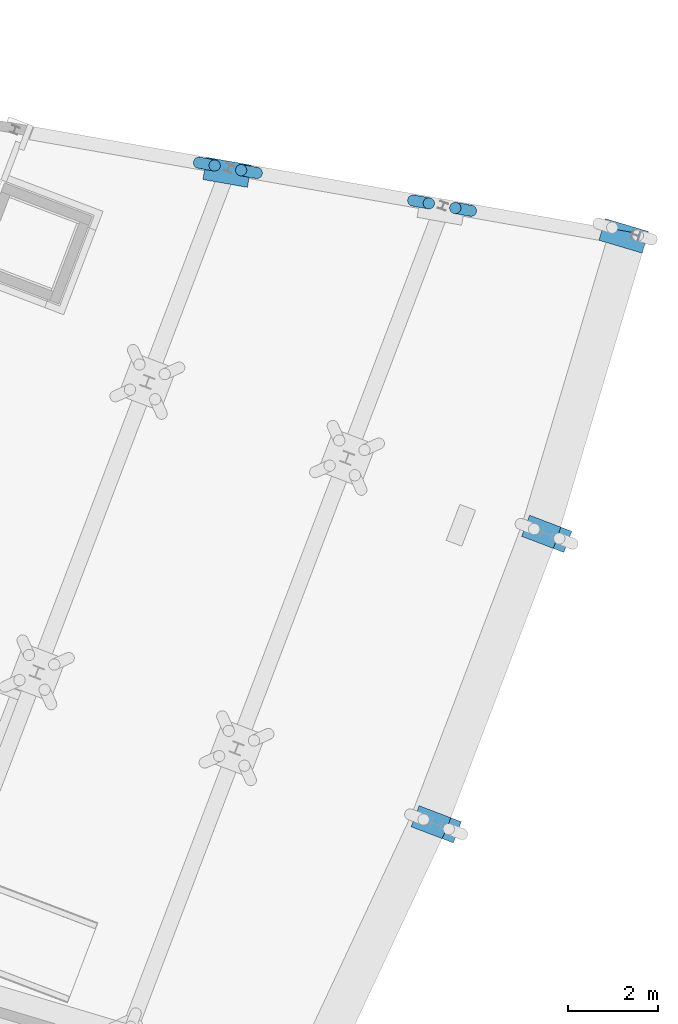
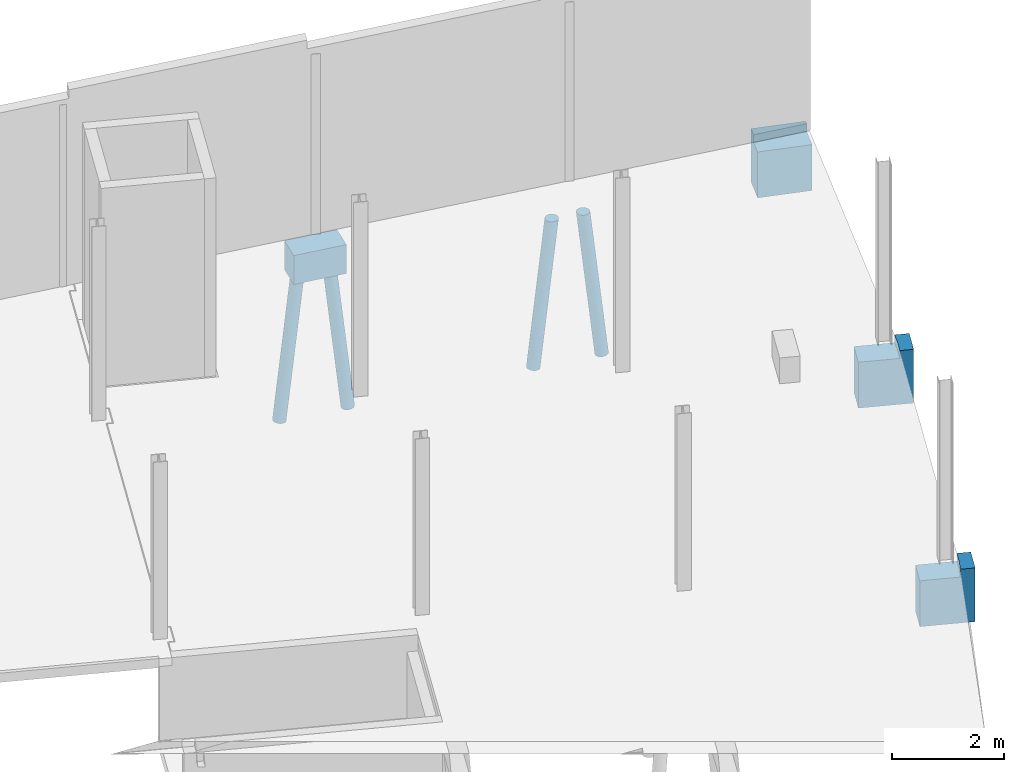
# One storey, part 30 of 46: 4 footings, 4 piles.
"""IFC2X3 building model written with IfcOpenShell, lengths in millimetres."""

from ifc_helpers import new_model, entity, si_unit, converted_unit, derived_unit, direction, frame, frame_2d, origin, place, context, subcontext, project, spatial, rectangle, extrude, faceted_brep, source, transform, mapped, material, type_object, type_shapes, element, save


model = new_model("IFC2X3")

# Units and contexts
model_context = context("Model", 3, precision=0.01, world=origin(), true_north=direction((6.123233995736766e-17, 1.0)))
body_context = subcontext(model_context, "Body", "Model", "MODEL_VIEW")
ifc_project = project(units=[si_unit("LENGTHUNIT", "METRE", prefix="MILLI"), converted_unit("PLANEANGLEUNIT", "DEGREE", entity("IfcPlaneAngleMeasure", 0.017453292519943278), si_unit("PLANEANGLEUNIT", "RADIAN"), dimensions=[0, 0, 0, 0, 0, 0, 0]), si_unit("AREAUNIT", "SQUARE_METRE"), derived_unit("THERMALTRANSMITTANCEUNIT", [(si_unit("MASSUNIT", "GRAM", prefix="KILO"), 1), (si_unit("THERMODYNAMICTEMPERATUREUNIT", "KELVIN"), -1), (si_unit("TIMEUNIT", "SECOND"), -3)])], contexts=[model_context])

# Site, building, storey
site_placement = place(None, frame((-72937.88054949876, 11621.45624098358, 0.0), z_axis=(0.0, 0.0, 1.0), x_axis=(0.9346418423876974, -0.35559053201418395, 0.0)))
site = spatial("IfcSite", under=ifc_project, at=site_placement, Name="Default", CompositionType="ELEMENT")
building_placement = place(site_placement, origin())
building = spatial("IfcBuilding", under=site, at=building_placement, CompositionType="ELEMENT")
storey_placement = place(building_placement, origin())
storey = spatial("IfcBuildingStorey", under=building, at=storey_placement, Name="00 begane grond", CompositionType="ELEMENT", Elevation=0.0)

# Footings
ifc_material_1 = material(Name="beton_gewapend_ihw")
type_product_1 = type_object("IfcTypeProduct", Name="poer 500x1000x1170mm", material=ifc_material_1)
shared_shape_1 = source(origin(), body_context, "Body", "Brep", [
    faceted_brep([(67530.00015558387, 22130.0, -1170.0), (67530.00015558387, 21630.0, -1170.0), (67262.15409664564, 21630.0, -1170.0), (67096.70138460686, 21630.0, -1170.0), (66530.00015558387, 21630.0, -1170.0), (66530.00015558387, 22130.0, -1170.0), (67115.00015558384, 22130.0, -1170.0), (67280.00015558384, 22130.0, -1170.0), (67530.00015558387, 21630.0, 0.0), (67530.00015558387, 22130.0, 0.0), (67280.00015558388, 22130.0, 0.0), (67280.00015558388, 21870.7468343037, 0.0), (67262.15409664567, 21630.0, 0.0), (66530.00015558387, 22130.0, -298.0891719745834), (66530.00015558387, 22130.0, -170.0), (67280.00015558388, 22130.0, -170.0), (66530.00015558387, 21630.0, -327.6735982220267), (66530.00015558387, 21630.0, -170.0), (66530.00015558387, 21898.506716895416, -170.0), (67262.15409664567, 21630.0, -170.0), (67280.00015558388, 21870.746834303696, -170.0)], [[[0, 1, 2, 3, 4, 5, 6, 7]], [[8, 9, 10, 11, 12]], [[0, 7, 6, 5, 13, 14, 15, 10, 9]], [[5, 4, 16, 17, 18, 14, 13]], [[4, 3, 2, 1, 8, 12, 19, 17, 16]], [[1, 0, 9, 8]], [[19, 20, 15, 14, 18, 17]], [[20, 11, 10, 15]], [[11, 20, 19, 12]]]),
])
type_shapes(type_product_1, [shared_shape_1])
footing_1_placement = place(storey_placement, frame((0.0, 0.0, -60.0)))
element("IfcFooting", 1, at=footing_1_placement, inside=storey, type_object=type_product_1, material=ifc_material_1, Name="16.13_Poer rechthoek", ObjectType="betonpoer rechthoekig", PredefinedType="PILE_CAP", context=body_context, shape_type="MappedRepresentation", body=[
    mapped(shared_shape_1, transform((0.0, 0.0, 0.0), scale=1.0)),
])
type_product_2 = type_object("IfcTypeProduct", Name="poer 500x1000x1170mm", material=ifc_material_1)
shared_shape_2 = source(origin(), body_context, "Body", "Brep", [
    faceted_brep([(67530.00015558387, 29010.0, -1170.0), (67530.00015558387, 28510.0, -1170.0), (67280.00015558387, 28510.0, -1170.0), (67115.00015558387, 28510.0, -1170.0), (66530.00015558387, 28510.0, -1170.0), (66530.00015558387, 29010.0, -1170.0), (67098.70689107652, 29010.0, -1170.0), (67264.1596031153, 29010.0, -1170.0), (67530.00015558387, 28510.0, 0.0), (67530.00015558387, 29010.0, 0.0), (67264.15960311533, 29010.0, 0.0), (67280.00015558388, 28796.307841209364, 0.0), (67280.00015558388, 28510.0, 0.0), (66530.00015558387, 29010.0, -324.6926781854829), (66530.00015558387, 29010.0, -170.0), (67264.15960311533, 29010.0, -170.0), (66530.00015558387, 28510.0, -298.08917197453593), (66530.00015558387, 28510.0, -170.0), (66530.00015558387, 28768.547958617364, -170.0), (67280.00015558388, 28510.0, -170.0), (67280.00015558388, 28796.307841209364, -170.0)], [[[0, 1, 2, 3, 4, 5, 6, 7]], [[8, 9, 10, 11, 12]], [[0, 7, 6, 5, 13, 14, 15, 10, 9]], [[5, 4, 16, 17, 18, 14, 13]], [[4, 3, 2, 1, 8, 12, 19, 17, 16]], [[1, 0, 9, 8]], [[19, 20, 15, 14, 18, 17]], [[20, 11, 10, 15]], [[11, 20, 19, 12]]]),
])
type_shapes(type_product_2, [shared_shape_2])
footing_2_placement = place(storey_placement, frame((0.0, 0.0, -60.0)))
element("IfcFooting", 2, at=footing_2_placement, inside=storey, type_object=type_product_2, material=ifc_material_1, Name="16.13_Poer rechthoek", ObjectType="betonpoer rechthoekig", PredefinedType="PILE_CAP", context=body_context, shape_type="MappedRepresentation", body=[
    mapped(shared_shape_2, transform((0.0, 0.0, 0.0), scale=1.0)),
])
type_product_3 = type_object("IfcTypeProduct", Name="poer 500x1000x800mm", material=ifc_material_1)
shared_shape_3 = source(origin(), body_context, "Body", "SweptSolid", [
    extrude(rectangle(XDim=630.0000000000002, YDim=499.9999999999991, at=frame_2d((-33.33333333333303, 33.33333333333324), x_axis=(1.0, 0.0))), frame((57072.62580059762, 33663.57920424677, -451.66666666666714), z_axis=(0.9822397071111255, 0.18763037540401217, 0.0), x_axis=(0.0, 0.0, 1.0)), (0.0, 0.0, 1.0), 1000.0000000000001),
])
type_shapes(type_product_3, [shared_shape_3])
footing_3_placement = place(storey_placement, frame((0.0, 0.0, -60.0)))
element("IfcFooting", 3, at=footing_3_placement, inside=storey, type_object=type_product_3, material=ifc_material_1, Name="16.13_Poer rechthoek", ObjectType="betonpoer rechthoekig", PredefinedType="PILE_CAP", context=body_context, shape_type="MappedRepresentation", body=[
    mapped(shared_shape_3, transform((0.0, 0.0, 0.0), scale=1.0)),
])

# Piles
ifc_material_2 = material(Name="beton_gewapend_prefab-element_c45/55")
type_product_4 = type_object("IfcTypeProduct", Name="Type 01", material=ifc_material_2)
shared_shape_4 = source(origin(), body_context, "Body", "Brep", [
    faceted_brep([(-21.492869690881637, -34.07967924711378, -2142.478153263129), (41.770052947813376, 0.0, -1615.9926657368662), (50.02983679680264, -41.219149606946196, -1478.3429510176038), (-120.39371842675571, -27.815116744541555, -840.0), (-209.76851175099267, 0.0, -1615.9934634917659), (-196.5141812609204, -41.35907440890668, -1560.4595682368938), (-88.87736384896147, -91.39060439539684, -2432.143714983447), (-29.01608810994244, -89.9027707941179, -1907.5825387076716), (-105.46135978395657, -105.60554685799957, -2414.744852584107), (115.53639022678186, -54.235467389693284, -840.0), (100.55257203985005, -77.93622523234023, -840.0), (44.04069234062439, -66.4881713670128, -1422.150587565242), (-241.29781855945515, -62.499999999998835, -4011.9545633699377), (-228.8866429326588, -32.35238063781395, -4013.333582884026), (-181.63351961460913, -47.83542906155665, -3540.4622999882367), (127.99146025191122, 0.0, -840.0), (124.838162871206, -27.815116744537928, -840.0), (56.79144948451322, -112.62110848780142, -840.0), (-1.0422673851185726, -115.29700921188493, -1306.634534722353), (80.6380595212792, -97.7289353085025, -840.0), (-148.00042706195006, -121.55050259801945, -1927.9224619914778), (-119.59016639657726, -124.7753227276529, -1868.475336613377), (-82.66188090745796, -124.23733970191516, -1479.1096584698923), (2.222222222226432, -125.0, -840.0), (-25.764066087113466, -121.86598902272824, -840.0), (35.238837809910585, -88.30507823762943, -1343.9943162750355), (-38.428481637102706, -123.46402257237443, -1382.7576650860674), (30.208510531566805, -121.86598902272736, -840.0), (-105.46067851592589, -124.17311504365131, -1939.1271630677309), (-121.64165871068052, -118.88184081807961, -2304.5646505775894), (-59.29822656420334, -117.91120533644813, -1769.4495348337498), (-224.65342205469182, 0.0, -4013.803940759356), (-181.5427184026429, 0.0, -3625.8076078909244), (-187.86059930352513, -76.09517863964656, -3448.7603995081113), (-111.16783038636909, -79.40373738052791, -2734.720867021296), (-186.42266103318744, -99.1691675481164, -3226.87509877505), (-381.04339378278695, -120.74072828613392, -3996.4272772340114), (-348.8888888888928, -125.0, -4000.0), (-294.25946310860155, -123.9306076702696, -3360.589550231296), (-119.53291308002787, -47.835429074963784, -2981.55684112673), (-105.13946974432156, -22.11026756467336, -2920.330251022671), (-71.50265177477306, -37.61355729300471, -2582.985799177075), (-160.26870491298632, -23.53094104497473, -3414.1045295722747), (-286.7711554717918, -108.25317547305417, -4006.901970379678), (-238.88036705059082, -115.48494156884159, -3443.09153660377), (-261.04114782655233, -88.38834764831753, -4009.7608601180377), (-316.7343839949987, -120.74072828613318, -4003.5727227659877), (-84.00174733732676, -60.02171841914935, -2608.908596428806), (-61.65923548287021, -74.64816535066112, -2322.8523974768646), (-173.2739820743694, -115.31995815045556, -2856.223431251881), (-151.97718420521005, -123.99260475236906, -2371.2114813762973), (-123.54701580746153, 0.0, -840.0), (-250.82857575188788, -22.617884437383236, -2004.2180489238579), (-295.9900076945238, 0.0, -2391.986926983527), (-52.347005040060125, -112.6211084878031, -840.0), (-76.19361507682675, -97.72893530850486, -840.0), (-107.44397040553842, -105.89787173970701, -1225.6035634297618), (-281.4812245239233, -123.93060767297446, -3541.076638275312), (-109.06614769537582, -117.5733672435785, -1457.2474766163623), (-111.0919457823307, -54.235467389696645, -840.0), (-15.85514051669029, -105.72630914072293, -1606.5585830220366), (-146.68659472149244, -88.47759853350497, -1380.5978408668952), (-158.7756678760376, -105.96661342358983, -1688.5825591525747), (-348.5966640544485, -22.310072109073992, -2883.621631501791), (-384.5571817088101, 0.0, -3189.0914931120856), (-404.9818286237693, -23.95962394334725, -3393.9013620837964), (-416.2874807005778, -47.83542904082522, -3560.826702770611), (-468.89113484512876, -32.35238063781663, -3986.6664171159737), (-456.47995921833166, -62.500000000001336, -3988.0454366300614), (-337.6622645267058, -115.48494156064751, -3465.7921474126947), (-411.00662230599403, -108.25317547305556, -3993.0980296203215), (-255.6918544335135, -84.13968982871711, -2324.129304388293), (-241.96823570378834, -100.09571921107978, -2359.7174741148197), (-204.57839676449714, -89.69967503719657, -1912.8684599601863), (-96.10812759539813, -77.93622523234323, -840.0), (-436.73662995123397, -88.38834764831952, -3990.239139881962), (-377.92930595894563, -99.16916753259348, -3572.292603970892), (-206.96183482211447, -60.377923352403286, -1731.5361763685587), (-358.429549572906, -47.83542903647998, -3040.1053226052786), (-296.17437932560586, -43.53585544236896, -2464.518236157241), (-379.61635653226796, -76.09517861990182, -3378.5322028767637), (-430.0136077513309, 0.0, -3598.199327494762), (-306.35511538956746, -77.61365432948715, -2729.9013330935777), (-213.4617402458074, -118.14633713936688, -2411.4959163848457), (-159.2186646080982, -65.41382269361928, -1328.4086999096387), (-67.97340634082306, -109.92592992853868, -2010.6352011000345), (-179.43548008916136, -124.76102802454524, -2404.9604566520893), (-13.219750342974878, -66.34050229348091, -1938.3332116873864), (-236.17409644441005, -124.51562049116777, -2886.015168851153), (-268.30597333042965, -110.23172722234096, -2741.026078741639), (-270.10864031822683, -119.49229851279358, -2958.6820679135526), (-320.7170568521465, -99.16916752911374, -3057.382361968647), (-473.12435572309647, 0.0, -3986.1960592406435), (-138.91569201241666, -99.37675608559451, -2796.855638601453), (-220.46267944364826, -123.93060767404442, -2991.9097324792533), (-44.45135435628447, 0.0, -2391.9853314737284), (-247.15908292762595, -66.69543969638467, -2127.0964328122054), (-134.55238820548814, 0.0, -3202.894636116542), (-89.50217198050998, 0.0, -2797.4426900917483), (-303.09738986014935, -21.900839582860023, -2473.4623287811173), (-340.273594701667, 0.0, -2790.539210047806), (-246.59414544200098, -45.75852255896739, -2025.9931784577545), (124.83816287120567, 27.815116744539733, -840.0), (115.53639022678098, 54.23546738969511, -840.0), (100.55257203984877, 77.93622523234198, -840.0), (80.63805952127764, 97.72893530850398, -840.0), (56.7914494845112, 112.62110848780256, -840.0), (30.20851053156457, 121.86598902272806, -840.0), (2.222222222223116, 125.0, -840.0), (-25.764066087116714, 121.86598902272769, -840.0), (-52.3470050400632, 112.62110848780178, -840.0), (-76.19361507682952, 97.72893530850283, -840.0), (-96.1081275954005, 77.93622523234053, -840.0), (-111.09194578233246, 54.23546738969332, -840.0), (-120.39371842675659, 27.815116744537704, -840.0), (-213.46174017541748, 118.14633716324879, -2411.4959163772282), (-268.3059732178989, 110.23172722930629, -2741.0260778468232), (-241.96823566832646, 100.09571920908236, -2359.717473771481), (-187.14229973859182, 67.59575846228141, -1592.137482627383), (-196.5141812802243, 41.359074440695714, -1560.4595685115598), (-82.66188086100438, 124.23733970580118, -1479.1096583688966), (-29.016087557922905, 89.90277069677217, -1907.5825346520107), (35.23883807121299, 88.30507821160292, -1343.9943141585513), (-13.219750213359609, 66.3405022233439, -1938.3332109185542), (-109.06614766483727, 117.57336725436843, -1457.2474766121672), (-381.04339378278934, 120.74072828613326, -3996.4272772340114), (-337.6622645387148, 115.48494156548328, -3465.7921476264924), (-294.2594631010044, 123.93060767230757, -3360.5895503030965), (-377.9293059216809, 99.16916753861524, -3572.292603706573), (-379.61635651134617, 76.09517863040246, -3378.53220276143), (-320.717056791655, 99.16916754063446, -3057.382361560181), (-286.77115547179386, 108.25317547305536, -4006.901970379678), (-238.88036707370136, 115.48494156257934, -3443.0915369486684), (-186.42266103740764, 99.16916753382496, -3226.875098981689), (-241.29781855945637, 62.50000000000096, -4011.9545633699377), (-181.63351956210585, 47.835429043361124, -3540.4622995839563), (-228.88664293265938, 32.352380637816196, -4013.333582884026), (-107.44397039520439, 105.89787175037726, -1225.6035634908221), (-38.428481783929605, 123.46402262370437, -1382.7576634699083), (-468.89113484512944, 32.35238063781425, -3986.6664171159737), (-173.2739821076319, 115.31995832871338, -2856.223427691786), (-138.91569233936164, 99.37675620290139, -2796.855640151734), (-160.26870486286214, 23.530941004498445, -3414.104529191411), (-261.041147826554, 88.38834764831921, -4009.7608601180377), (-187.86059935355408, 76.09517862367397, -3448.760400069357), (-306.35511542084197, 77.61365434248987, -2729.9013334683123), (-348.8888888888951, 125.0, -4000.0), (-456.47995921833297, 62.49999999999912, -3988.0454366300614), (-416.2874806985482, 47.83542904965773, -3560.826702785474), (-411.0066223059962, 108.25317547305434, -3993.0980296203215), (-436.7366299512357, 88.38834764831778, -3990.239139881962), (-84.00174724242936, 60.02171839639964, -2608.9085956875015), (-21.492869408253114, 34.07967918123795, -2142.4781508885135), (-71.50265159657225, 37.613557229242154, -2582.9857977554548), (-220.46267940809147, 123.93060767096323, -2991.909732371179), (-281.48122449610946, 123.9306076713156, -3541.07663813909), (-148.0004270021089, 121.5505026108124, -1927.922461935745), (-158.7756678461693, 105.9666134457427, -1688.5825592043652), (-15.85514048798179, 105.72630911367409, -1606.5585831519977), (-59.298225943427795, 117.91120535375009, -1769.449528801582), (-1.0422669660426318, 115.29700910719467, -1306.634533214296), (-270.1086403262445, 119.49229851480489, -2958.682068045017), (50.02983688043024, 41.21914955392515, -1478.342950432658), (-146.6865947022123, 88.47759855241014, -1380.5978408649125), (-358.42954957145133, 47.83542905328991, -3040.1053226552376), (-348.59666404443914, 22.310072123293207, -2883.6216314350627), (-296.1743793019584, 43.535855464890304, -2464.5182360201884), (57.21126448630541, 65.80573689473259, -1307.4694469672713), (-121.64165783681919, 118.88184074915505, -2304.564644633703), (-67.97340649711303, 109.92593000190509, -2010.6352012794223), (-105.13946990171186, 22.110267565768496, -2920.330252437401), (-179.4354799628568, 124.7610280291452, -2404.960456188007), (-316.73438399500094, 120.7407282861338, -4003.5727227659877), (-119.53291301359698, 47.8354290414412, -2981.5568406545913), (-250.82857577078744, 22.617884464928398, -2004.2180491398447), (-404.98182862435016, 23.959623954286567, -3393.9013621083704), (-61.65923550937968, 74.64816548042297, -2322.852396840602), (-243.17628094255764, 45.971171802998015, -1995.991919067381), (-105.46135971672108, 105.60554680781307, -2414.7448526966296), (-111.16783063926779, 79.40373735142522, -2734.7208695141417), (-119.59016630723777, 124.7753227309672, -1868.4753363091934), (-236.17409637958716, 124.515620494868, -2886.0151686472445), (-204.5783966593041, 89.69967507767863, -1912.8684593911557), (-247.1590829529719, 66.69543974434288, -2127.0964333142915), (-88.87736442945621, 91.39060438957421, -2432.1437202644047), (-255.69185439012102, 84.13968979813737, -2324.1293037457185), (-168.1781585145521, 123.85607816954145, -2526.387901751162), (-105.46067843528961, 124.17311503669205, -1939.1271628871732), (-303.0973898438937, 21.90083960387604, -2473.4623286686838)], [[[0, 1, 2]], [[3, 4, 5]], [[6, 7, 8]], [[9, 10, 11]], [[12, 13, 14]], [[1, 15, 16]], [[17, 18, 19]], [[20, 21, 22]], [[22, 23, 24]], [[10, 19, 25]], [[26, 18, 27]], [[23, 22, 26]], [[28, 29, 30]], [[13, 31, 32]], [[33, 34, 35]], [[36, 37, 38]], [[39, 40, 41]], [[14, 42, 39]], [[43, 35, 44]], [[33, 35, 45]], [[43, 44, 46]], [[47, 48, 34]], [[49, 29, 50]], [[3, 51, 4]], [[30, 26, 28]], [[52, 4, 53]], [[54, 55, 56]], [[57, 38, 37]], [[58, 24, 54]], [[57, 37, 46]], [[3, 5, 59]], [[2, 16, 9]], [[4, 52, 5]], [[25, 60, 7]], [[45, 35, 43]], [[61, 62, 56]], [[63, 64, 65]], [[66, 67, 68]], [[69, 36, 38]], [[36, 69, 70]], [[71, 72, 73]], [[61, 55, 74]], [[75, 70, 76]], [[61, 77, 73]], [[63, 78, 79]], [[75, 76, 80]], [[64, 81, 65]], [[78, 80, 82]], [[75, 80, 68]], [[72, 83, 62]], [[5, 84, 59]], [[29, 8, 85]], [[11, 10, 25]], [[28, 21, 86]], [[45, 12, 33]], [[49, 44, 35]], [[58, 54, 56]], [[22, 58, 20]], [[0, 2, 87]], [[1, 16, 2]], [[88, 86, 83]], [[39, 42, 40]], [[89, 69, 90]], [[74, 59, 84]], [[62, 73, 72]], [[82, 80, 91]], [[66, 80, 78]], [[14, 33, 12]], [[67, 81, 92]], [[34, 33, 39]], [[39, 41, 47]], [[34, 6, 93]], [[35, 93, 49]], [[57, 44, 94]], [[90, 69, 38]], [[76, 69, 91]], [[34, 39, 47]], [[1, 0, 95]], [[72, 82, 91]], [[82, 96, 79]], [[72, 91, 89]], [[62, 61, 73]], [[32, 42, 13]], [[33, 14, 39]], [[44, 57, 46]], [[38, 57, 94]], [[42, 32, 97]], [[42, 97, 40]], [[13, 42, 14]], [[40, 97, 98, 95]], [[41, 95, 0]], [[61, 56, 55]], [[58, 56, 62]], [[20, 62, 83]], [[24, 58, 22]], [[62, 20, 58]], [[20, 83, 86]], [[83, 90, 88]], [[28, 50, 29]], [[90, 38, 88]], [[89, 90, 83]], [[95, 41, 40]], [[47, 0, 87]], [[0, 47, 41]], [[48, 47, 87]], [[7, 48, 87]], [[6, 34, 48]], [[87, 2, 11]], [[7, 60, 85]], [[60, 25, 19]], [[11, 7, 87]], [[7, 6, 48]], [[93, 6, 8]], [[93, 8, 49]], [[34, 93, 35]], [[29, 49, 8]], [[94, 44, 49]], [[30, 85, 60]], [[28, 86, 50]], [[18, 30, 60]], [[18, 26, 30]], [[23, 26, 27]], [[21, 26, 22]], [[19, 18, 60]], [[18, 17, 27]], [[77, 61, 84]], [[71, 96, 82]], [[72, 89, 83]], [[69, 89, 91]], [[38, 94, 88]], [[50, 88, 94]], [[80, 66, 68]], [[65, 67, 66]], [[78, 63, 65]], [[67, 65, 81]], [[78, 65, 66]], [[78, 82, 79]], [[99, 100, 63]], [[79, 101, 52]], [[99, 63, 79]], [[69, 76, 70]], [[80, 76, 91]], [[96, 71, 73]], [[82, 72, 71]], [[29, 85, 30]], [[7, 85, 8]], [[99, 52, 53]], [[101, 79, 96]], [[77, 84, 5]], [[74, 84, 61]], [[86, 21, 20]], [[26, 21, 28]], [[9, 11, 2]], [[7, 11, 25]], [[88, 50, 86]], [[49, 50, 94]], [[52, 99, 79]], [[100, 64, 63]], [[100, 99, 53]], [[77, 101, 96]], [[5, 52, 101]], [[101, 77, 5]], [[73, 77, 96]], [[24, 23, 27, 17, 19, 10, 9, 16, 15, 102, 103, 104, 105, 106, 107, 108, 109, 110, 111, 112, 113, 114, 51, 3, 59, 74, 55, 54]], [[51, 114, 4]], [[115, 116, 117]], [[118, 113, 112]], [[119, 114, 113]], [[120, 109, 108]], [[121, 122, 123]], [[120, 124, 109]], [[125, 126, 127]], [[128, 129, 130]], [[131, 132, 133]], [[134, 135, 136]], [[137, 111, 110]], [[138, 108, 107]], [[139, 92, 81]], [[140, 141, 133]], [[142, 97, 32]], [[143, 133, 144]], [[130, 129, 145]], [[146, 125, 127]], [[147, 139, 148]], [[149, 150, 128]], [[151, 152, 153]], [[154, 155, 127]], [[124, 156, 157]], [[158, 159, 160]], [[4, 114, 119]], [[160, 107, 106]], [[161, 127, 126]], [[103, 102, 162]], [[158, 160, 105]], [[111, 137, 163]], [[164, 165, 166]], [[105, 104, 122]], [[102, 15, 1]], [[167, 103, 162]], [[167, 123, 122]], [[168, 159, 169]], [[170, 97, 142]], [[115, 156, 171]], [[155, 172, 146]], [[163, 118, 112]], [[169, 159, 158]], [[111, 163, 112]], [[143, 131, 133]], [[130, 145, 117]], [[134, 143, 144]], [[123, 162, 152]], [[129, 150, 147]], [[173, 151, 153]], [[119, 174, 4]], [[148, 175, 164]], [[121, 123, 176]], [[166, 174, 177]], [[140, 168, 178]], [[131, 172, 132]], [[144, 179, 173]], [[171, 156, 180]], [[124, 157, 137]], [[102, 1, 162]], [[152, 1, 95]], [[125, 149, 126]], [[136, 32, 31]], [[115, 181, 161]], [[182, 157, 117]], [[118, 183, 177]], [[148, 129, 147]], [[164, 166, 145]], [[155, 132, 172]], [[164, 175, 165]], [[141, 140, 178]], [[179, 144, 133]], [[135, 144, 173]], [[178, 184, 141]], [[151, 176, 123]], [[128, 126, 149]], [[161, 116, 115]], [[1, 152, 162]], [[95, 170, 153]], [[164, 145, 129]], [[163, 157, 182]], [[185, 183, 182]], [[115, 117, 157]], [[144, 135, 134]], [[142, 136, 135]], [[127, 155, 146]], [[132, 155, 154]], [[173, 170, 142]], [[136, 142, 32]], [[173, 142, 135]], [[153, 170, 173]], [[170, 95, 98, 97]], [[110, 109, 124]], [[163, 137, 157]], [[124, 137, 110]], [[156, 124, 120]], [[180, 156, 120]], [[157, 156, 115]], [[186, 187, 168]], [[161, 181, 127]], [[116, 126, 130]], [[181, 115, 171]], [[173, 179, 151]], [[95, 153, 152]], [[176, 151, 179]], [[152, 151, 123]], [[179, 184, 176]], [[178, 169, 121]], [[121, 176, 184]], [[158, 105, 122]], [[103, 167, 104]], [[158, 122, 121]], [[141, 179, 133]], [[121, 184, 178]], [[179, 141, 184]], [[140, 133, 132]], [[132, 154, 140]], [[181, 186, 154]], [[186, 140, 154]], [[168, 187, 159]], [[138, 159, 187]], [[107, 160, 138]], [[180, 138, 187]], [[108, 138, 120]], [[138, 160, 159]], [[105, 160, 106]], [[185, 182, 117]], [[118, 182, 183]], [[126, 116, 161]], [[117, 116, 130]], [[186, 181, 171]], [[154, 127, 181]], [[81, 175, 139]], [[129, 148, 164]], [[175, 81, 64]], [[175, 64, 165]], [[139, 175, 148]], [[165, 64, 100]], [[166, 183, 145]], [[165, 188, 166]], [[174, 53, 4]], [[129, 128, 150]], [[126, 128, 130]], [[117, 145, 185]], [[183, 185, 145]], [[121, 169, 158]], [[168, 169, 178]], [[177, 174, 119]], [[188, 174, 166]], [[113, 118, 119]], [[182, 118, 163]], [[138, 180, 120]], [[171, 180, 187]], [[123, 167, 162]], [[104, 167, 122]], [[187, 186, 171]], [[140, 186, 168]], [[100, 188, 165]], [[188, 100, 53]], [[174, 188, 53]], [[118, 177, 119]], [[166, 177, 183]], [[146, 172, 131, 143, 134, 136, 31, 13, 12, 45, 43, 46, 37, 36, 70, 75, 68, 67, 92, 139, 147, 150, 149, 125]]]),
])
type_shapes(type_product_4, [shared_shape_4])
for number, where, z_axis, x_axis, name in (
    (4, (57256.565050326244, 33766.58792646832, 0.0), (0.0, 0.0, 1.0), (0.9822397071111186, 0.1876303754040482, 0.0), "17.21_Prefab funderingspaal rond"),
    (5, (57845.90887459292, 33879.166151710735, 0.0), (0.0, 0.0, 1.0), (-0.9822397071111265, -0.18763037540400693, 0.0), "17.21_Prefab funderingspaal rond"),
    (6, (61986.565050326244, 34670.126715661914, 0.0), (0.0, 0.0, 1.0), (0.9822397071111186, 0.1876303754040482, 0.0), "17.21_Prefab funderingspaal rond"),
    (7, (62575.90887459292, 34782.70494090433, 0.0), (0.0, 0.0, 1.0), (-0.9822397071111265, -0.18763037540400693, 0.0), "17.21_Prefab funderingspaal rond"),
):
    element("IfcPile", number, at=place(storey_placement, frame(where, z_axis=z_axis, x_axis=x_axis)), inside=storey, type_object=type_product_4, material=ifc_material_2, Name=name, ObjectType="prefab paal rond", PredefinedType="NOTDEFINED", context=body_context, shape_type="MappedRepresentation", body=[
        mapped(shared_shape_4, transform((0.0, 0.0, 0.0), scale=1.0)),
    ])

# Footing
type_product_5 = type_object("IfcTypeProduct", Name="poer 500x1000x1170mm", material=ifc_material_1)
shared_shape_5 = source(origin(), body_context, "Body", "Brep", [
    faceted_brep([(66759.47696074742, 35818.26780289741, -1170.0), (66796.4394997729, 35319.63590388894, -1170.0), (66631.89097310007, 35307.438266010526, -1170.0), (65799.17570175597, 35245.710825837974, -1170.0), (65762.21316273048, 35744.342724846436, -1170.0), (66759.47696074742, 35818.26780289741, 0.0), (65762.21316273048, 35744.342724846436, 0.0), (65776.85134414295, 35546.87078736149, 0.0), (66765.59431930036, 35735.74343653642, 0.0), (66796.4394997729, 35319.63590388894, -170.0), (65962.78662998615, 35257.83896150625, -170.0), (65799.17570175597, 35245.710825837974, -170.0), (65776.85134414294, 35546.87078736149, -170.0), (66765.59431930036, 35735.74343653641, -170.0)], [[[0, 1, 2, 3, 4]], [[5, 6, 7, 8]], [[3, 2, 1, 9, 10, 11]], [[4, 3, 11, 12, 7, 6]], [[0, 4, 6, 5]], [[1, 0, 5, 8, 13, 9]], [[13, 12, 11, 10, 9]], [[12, 13, 8, 7]]]),
])
type_shapes(type_product_5, [shared_shape_5])
footing_4_placement = place(storey_placement, frame((0.0, 0.0, -60.0)))
element("IfcFooting", 8, at=footing_4_placement, inside=storey, type_object=type_product_5, material=ifc_material_1, Name="16.13_Poer rechthoek", ObjectType="betonpoer rechthoekig", PredefinedType="PILE_CAP", context=body_context, shape_type="MappedRepresentation", body=[
    mapped(shared_shape_5, transform((0.0, 0.0, 0.0), scale=1.0)),
])

save(model, "model.ifc")
